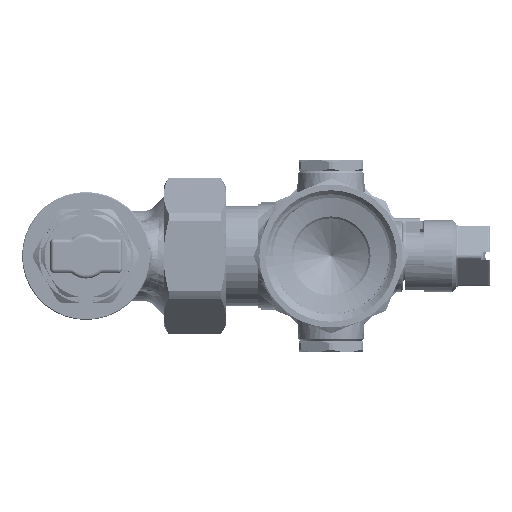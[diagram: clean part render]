
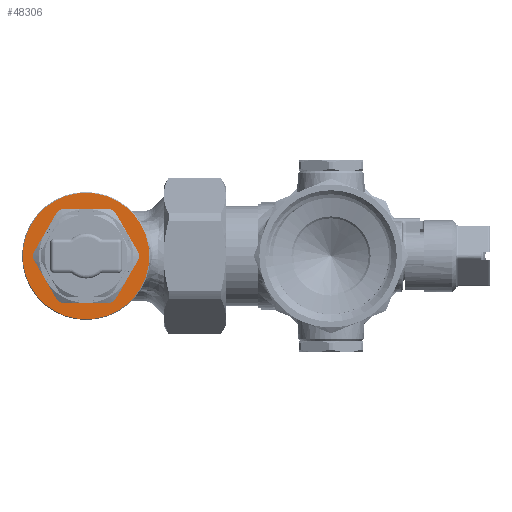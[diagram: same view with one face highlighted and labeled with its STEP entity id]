
A CAD part, front view. The second image highlights one B-rep face of the part: STEP entity #48306.
In plain terms, the highlighted planar face has unit normal (0, -1, 0).
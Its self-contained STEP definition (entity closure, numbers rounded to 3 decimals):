
#545 = EDGE_LOOP ( 'NONE', ( #62845, #138504 ) ) ;
#1499 = DIRECTION ( 'NONE',  ( 0., -1., 0. ) ) ;
#2890 = AXIS2_PLACEMENT_3D ( 'NONE', #155146, #74355, #123184 ) ;
#5603 = AXIS2_PLACEMENT_3D ( 'NONE', #95337, #160205, #123025 ) ;
#7696 = CARTESIAN_POINT ( 'NONE',  ( 13.978, 6.5, -0.79 ) ) ;
#9098 = DIRECTION ( 'NONE',  ( -0.5, 0., 0.866 ) ) ;
#10111 = DIRECTION ( 'NONE',  ( 0., 0., 1. ) ) ;
#14260 = VECTOR ( 'NONE', #100333, 1000. ) ;
#18712 = CARTESIAN_POINT ( 'NONE',  ( 0., 6.5, 0. ) ) ;
#19626 = CIRCLE ( 'NONE', #124712, 14. ) ;
#21375 = DIRECTION ( 'NONE',  ( 0., -1., 0. ) ) ;
#22330 = DIRECTION ( 'NONE',  ( 0., 0., -1. ) ) ;
#26198 = AXIS2_PLACEMENT_3D ( 'NONE', #173601, #158774, #28104 ) ;
#28104 = DIRECTION ( 'NONE',  ( 0., 0., 1. ) ) ;
#33912 = AXIS2_PLACEMENT_3D ( 'NONE', #202934, #106327, #110511 ) ;
#34418 = VERTEX_POINT ( 'NONE', #191140 ) ;
#35596 = CARTESIAN_POINT ( 'NONE',  ( -17.5, 6.5, -12.5 ) ) ;
#36059 = CARTESIAN_POINT ( 'NONE',  ( 6.305, 6.5, -12.5 ) ) ;
#39130 = CARTESIAN_POINT ( 'NONE',  ( 0., 6.5, -16.8 ) ) ;
#44051 = CARTESIAN_POINT ( 'NONE',  ( 13.978, 6.5, -0.79 ) ) ;
#44381 = CARTESIAN_POINT ( 'NONE',  ( -13.978, 6.5, -0.79 ) ) ;
#45873 = VECTOR ( 'NONE', #143843, 1000. ) ;
#46198 = CIRCLE ( 'NONE', #5603, 14. ) ;
#46373 = VECTOR ( 'NONE', #189602, 1000. ) ;
#46866 = ORIENTED_EDGE ( 'NONE', *, *, #202049, .F. ) ;
#48193 = CARTESIAN_POINT ( 'NONE',  ( 13.978, 6.5, 0.79 ) ) ;
#48306 = ADVANCED_FACE ( 'NONE', ( #51073, #180655 ), #115857, .T. ) ;
#50199 = CARTESIAN_POINT ( 'NONE',  ( 0., 6.5, 0. ) ) ;
#51073 = FACE_OUTER_BOUND ( 'NONE', #545, .T. ) ;
#51333 = EDGE_CURVE ( 'NONE', #154278, #164518, #195634, .T. ) ;
#51375 = EDGE_CURVE ( 'NONE', #89769, #173617, #76961, .T. ) ;
#52275 = ORIENTED_EDGE ( 'NONE', *, *, #112278, .F. ) ;
#52823 = CARTESIAN_POINT ( 'NONE',  ( -17.5, 6.5, 12.5 ) ) ;
#54174 = CARTESIAN_POINT ( 'NONE',  ( -17.5, 6.5, 0. ) ) ;
#59017 = CARTESIAN_POINT ( 'NONE',  ( -13.978, 6.5, 0.79 ) ) ;
#59071 = ORIENTED_EDGE ( 'NONE', *, *, #51375, .F. ) ;
#61013 = CARTESIAN_POINT ( 'NONE',  ( 0., 6.5, 0. ) ) ;
#62845 = ORIENTED_EDGE ( 'NONE', *, *, #108602, .F. ) ;
#63602 = ORIENTED_EDGE ( 'NONE', *, *, #77741, .T. ) ;
#63901 = CARTESIAN_POINT ( 'NONE',  ( -7.673, 6.5, -11.71 ) ) ;
#66659 = EDGE_CURVE ( 'NONE', #159762, #70358, #114494, .T. ) ;
#69439 = CARTESIAN_POINT ( 'NONE',  ( -7.673, 6.5, 11.71 ) ) ;
#69812 = DIRECTION ( 'NONE',  ( 1., 0., 0. ) ) ;
#70358 = VERTEX_POINT ( 'NONE', #48193 ) ;
#71393 = AXIS2_PLACEMENT_3D ( 'NONE', #50199, #1499, #194650 ) ;
#74355 = DIRECTION ( 'NONE',  ( 0., 1., 0. ) ) ;
#76961 = CIRCLE ( 'NONE', #188972, 14. ) ;
#77741 = EDGE_CURVE ( 'NONE', #89769, #87613, #133279, .T. ) ;
#79022 = LINE ( 'NONE', #44051, #45873 ) ;
#79448 = DIRECTION ( 'NONE',  ( 0.5, 0., -0.866 ) ) ;
#79656 = AXIS2_PLACEMENT_3D ( 'NONE', #54174, #185858, #22330 ) ;
#80727 = ORIENTED_EDGE ( 'NONE', *, *, #66659, .T. ) ;
#82542 = ORIENTED_EDGE ( 'NONE', *, *, #119766, .T. ) ;
#83161 = EDGE_CURVE ( 'NONE', #178818, #173617, #79022, .T. ) ;
#86092 = DIRECTION ( 'NONE',  ( 0., 0., 1. ) ) ;
#86341 = ORIENTED_EDGE ( 'NONE', *, *, #106185, .F. ) ;
#87613 = VERTEX_POINT ( 'NONE', #178574 ) ;
#87870 = VECTOR ( 'NONE', #9098, 1000. ) ;
#89769 = VERTEX_POINT ( 'NONE', #36059 ) ;
#89931 = LINE ( 'NONE', #52823, #95858 ) ;
#93358 = ORIENTED_EDGE ( 'NONE', *, *, #83161, .T. ) ;
#94339 = CIRCLE ( 'NONE', #2890, 16.8 ) ;
#95337 = CARTESIAN_POINT ( 'NONE',  ( 0., 6.5, 0. ) ) ;
#95858 = VECTOR ( 'NONE', #69812, 1000. ) ;
#97498 = EDGE_CURVE ( 'NONE', #34418, #100638, #89931, .T. ) ;
#100079 = CARTESIAN_POINT ( 'NONE',  ( 7.673, 6.5, 11.71 ) ) ;
#100333 = DIRECTION ( 'NONE',  ( -1., 0., 0. ) ) ;
#100638 = VERTEX_POINT ( 'NONE', #112305 ) ;
#104709 = LINE ( 'NONE', #59017, #46373 ) ;
#105553 = VERTEX_POINT ( 'NONE', #69439 ) ;
#106185 = EDGE_CURVE ( 'NONE', #159762, #100638, #46198, .T. ) ;
#106327 = DIRECTION ( 'NONE',  ( 0., -1., 0. ) ) ;
#108602 = EDGE_CURVE ( 'NONE', #164518, #154278, #94339, .T. ) ;
#110511 = DIRECTION ( 'NONE',  ( 0., 0., 1. ) ) ;
#111363 = CARTESIAN_POINT ( 'NONE',  ( 7.673, 6.5, 11.71 ) ) ;
#112278 = EDGE_CURVE ( 'NONE', #139663, #209682, #179965, .T. ) ;
#112305 = CARTESIAN_POINT ( 'NONE',  ( 6.305, 6.5, 12.5 ) ) ;
#114329 = DIRECTION ( 'NONE',  ( 0., -1., 0. ) ) ;
#114494 = LINE ( 'NONE', #111363, #179708 ) ;
#115857 = PLANE ( 'NONE',  #79656 ) ;
#118317 = VERTEX_POINT ( 'NONE', #186672 ) ;
#119766 = EDGE_CURVE ( 'NONE', #139663, #105553, #104709, .T. ) ;
#123025 = DIRECTION ( 'NONE',  ( 0., 0., 1. ) ) ;
#123184 = DIRECTION ( 'NONE',  ( 0., 0., 1. ) ) ;
#124153 = ORIENTED_EDGE ( 'NONE', *, *, #97498, .T. ) ;
#124712 = AXIS2_PLACEMENT_3D ( 'NONE', #182783, #21375, #86092 ) ;
#125788 = DIRECTION ( 'NONE',  ( 0., -1., 0. ) ) ;
#127184 = EDGE_CURVE ( 'NONE', #118317, #87613, #19626, .T. ) ;
#132624 = AXIS2_PLACEMENT_3D ( 'NONE', #18712, #114329, #163221 ) ;
#133279 = LINE ( 'NONE', #35596, #14260 ) ;
#135168 = ORIENTED_EDGE ( 'NONE', *, *, #127184, .F. ) ;
#137177 = CARTESIAN_POINT ( 'NONE',  ( -13.978, 6.5, 0.79 ) ) ;
#138504 = ORIENTED_EDGE ( 'NONE', *, *, #51333, .F. ) ;
#139496 = CARTESIAN_POINT ( 'NONE',  ( 7.673, 6.5, -11.71 ) ) ;
#139663 = VERTEX_POINT ( 'NONE', #137177 ) ;
#143843 = DIRECTION ( 'NONE',  ( -0.5, 0., -0.866 ) ) ;
#149205 = EDGE_CURVE ( 'NONE', #118317, #209682, #154594, .T. ) ;
#149312 = CARTESIAN_POINT ( 'NONE',  ( 0., 6.5, 16.8 ) ) ;
#150271 = ORIENTED_EDGE ( 'NONE', *, *, #149205, .T. ) ;
#154278 = VERTEX_POINT ( 'NONE', #39130 ) ;
#154594 = LINE ( 'NONE', #63901, #87870 ) ;
#155146 = CARTESIAN_POINT ( 'NONE',  ( 0., 6.5, 0. ) ) ;
#156925 = ORIENTED_EDGE ( 'NONE', *, *, #184292, .F. ) ;
#158410 = EDGE_LOOP ( 'NONE', ( #52275, #82542, #156925, #124153, #86341, #80727, #46866, #93358, #59071, #63602, #135168, #150271 ) ) ;
#158774 = DIRECTION ( 'NONE',  ( 0., 1., 0. ) ) ;
#159762 = VERTEX_POINT ( 'NONE', #100079 ) ;
#160205 = DIRECTION ( 'NONE',  ( 0., -1., 0. ) ) ;
#163221 = DIRECTION ( 'NONE',  ( 0., 0., 1. ) ) ;
#164518 = VERTEX_POINT ( 'NONE', #149312 ) ;
#173601 = CARTESIAN_POINT ( 'NONE',  ( 0., 6.5, 0. ) ) ;
#173617 = VERTEX_POINT ( 'NONE', #139496 ) ;
#178574 = CARTESIAN_POINT ( 'NONE',  ( -6.305, 6.5, -12.5 ) ) ;
#178818 = VERTEX_POINT ( 'NONE', #7696 ) ;
#179708 = VECTOR ( 'NONE', #79448, 1000. ) ;
#179965 = CIRCLE ( 'NONE', #71393, 14. ) ;
#180655 = FACE_BOUND ( 'NONE', #158410, .T. ) ;
#182783 = CARTESIAN_POINT ( 'NONE',  ( 0., 6.5, 0. ) ) ;
#184292 = EDGE_CURVE ( 'NONE', #34418, #105553, #189864, .T. ) ;
#185858 = DIRECTION ( 'NONE',  ( 0., -1., 0. ) ) ;
#186672 = CARTESIAN_POINT ( 'NONE',  ( -7.673, 6.5, -11.71 ) ) ;
#188972 = AXIS2_PLACEMENT_3D ( 'NONE', #61013, #125788, #10111 ) ;
#189602 = DIRECTION ( 'NONE',  ( 0.5, 0., 0.866 ) ) ;
#189864 = CIRCLE ( 'NONE', #33912, 14. ) ;
#190166 = CIRCLE ( 'NONE', #132624, 14. ) ;
#191140 = CARTESIAN_POINT ( 'NONE',  ( -6.305, 6.5, 12.5 ) ) ;
#194650 = DIRECTION ( 'NONE',  ( 0., 0., 1. ) ) ;
#195634 = CIRCLE ( 'NONE', #26198, 16.8 ) ;
#202049 = EDGE_CURVE ( 'NONE', #178818, #70358, #190166, .T. ) ;
#202934 = CARTESIAN_POINT ( 'NONE',  ( 0., 6.5, 0. ) ) ;
#209682 = VERTEX_POINT ( 'NONE', #44381 ) ;
